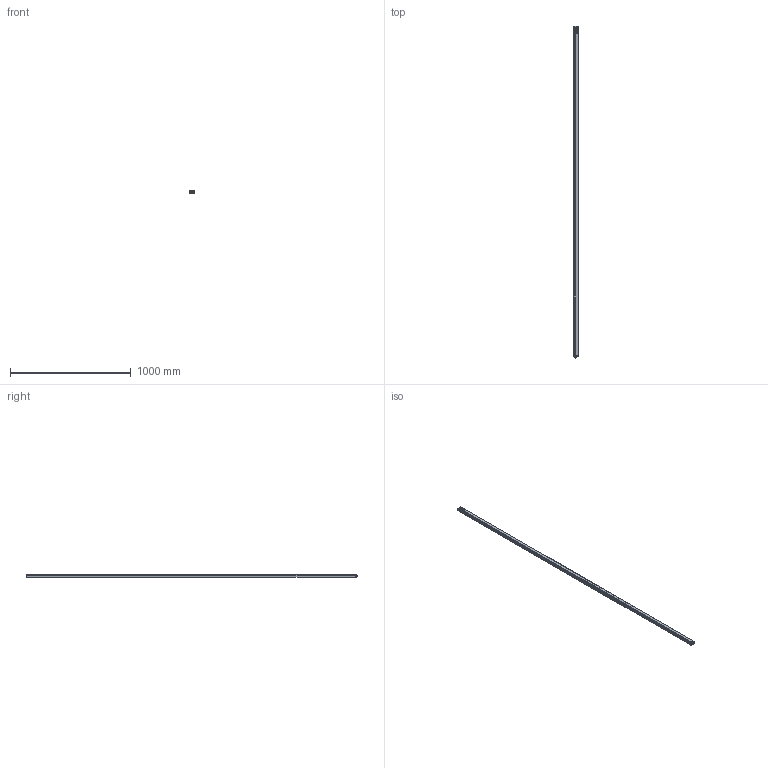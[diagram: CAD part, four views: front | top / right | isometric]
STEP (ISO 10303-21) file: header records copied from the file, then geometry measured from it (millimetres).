
FILE_DESCRIPTION(/* description */ (''),/* implementation_level */ '2;1');
FILE_NAME(/* name */ 'C:\Users\andre\SynologyDrive\Optoscan\Libreria Componenti\00 - Barriere\Barriera sorgente\Argo_2720_TX.stp',/* time_stamp */ '2021-04-23T12:45:16+02:00',/* author */ ('andre'),/* organization */ (''),/* preprocessor_version */ 'ST-DEVELOPER v18',/* originating_system */ 'Autodesk Inventor 2020',/* authorisation */ '');
FILE_SCHEMA (('AUTOMOTIVE_DESIGN { 1 0 10303 214 3 1 1 }'));
Length unit declared in the file: millimetre
Products named in the file (1): Argo_2720_TX
Bounding box: 40.5 x 2753.3 x 20.75 mm (x, y, z)
Volume: 540702.2 mm3; surface area: 714510.5 mm2
Topology: 1 solids, 1 shells, 680 faces, 1867 edges, 1193 vertices
Faces by surface type: plane 317, cylinder 191, bspline 94, torus 64, cone 8, sphere 6
Full cylindrical faces by diameter (mm): 1 x4, 2.5 x4, 3 x4, 3.5 x4, 5.5 x4, 8 x1, 10.5 x2, 11.75 x9, 15.7 x1, 17.5 x1
Entity records: 30188 total; most frequent: CARTESIAN_POINT 12578, ORIENTED_EDGE 3718, DIRECTION 3299, EDGE_CURVE 1859, VERTEX_POINT 1193, AXIS2_PLACEMENT_3D 1137, LINE 1025, VECTOR 1025
